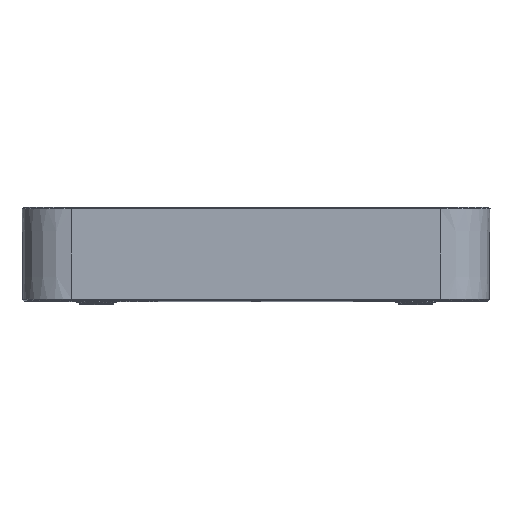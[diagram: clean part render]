
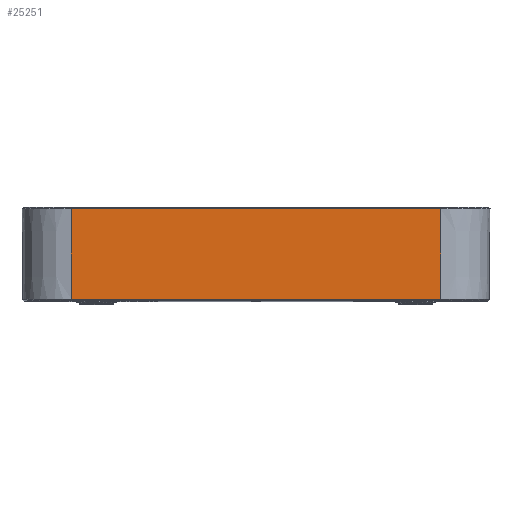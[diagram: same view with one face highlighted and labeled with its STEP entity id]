
A CAD part, top view. The second image highlights one B-rep face of the part: STEP entity #25251.
In plain terms, the highlighted planar face has unit normal (0, -0.009, 1).
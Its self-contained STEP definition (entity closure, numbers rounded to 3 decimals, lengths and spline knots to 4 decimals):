
#5298=DIRECTION('',(-1.,0.,0.));
#5299=VECTOR('',#5298,4.55);
#5300=CARTESIAN_POINT('',(2.275,0.0197,2.8752));
#5301=LINE('',#5300,#5299);
#5302=DIRECTION('',(0.,1.,0.009));
#5303=VECTOR('',#5302,1.1124);
#5304=CARTESIAN_POINT('',(-2.275,0.0197,
2.8752));
#5305=LINE('',#5304,#5303);
#5306=DIRECTION('',(-1.,0.,0.));
#5307=VECTOR('',#5306,4.55);
#5308=CARTESIAN_POINT('',(2.275,1.132,2.8849));
#5309=LINE('',#5308,#5307);
#5323=DIRECTION('',(0.,1.,0.009));
#5324=VECTOR('',#5323,1.1124);
#5325=CARTESIAN_POINT('',(2.275,0.0197,2.8752));
#5326=LINE('',#5325,#5324);
#17376=CARTESIAN_POINT('',(2.275,0.0197,2.8752));
#17377=VERTEX_POINT('',#17376);
#17380=CARTESIAN_POINT('',(-2.275,0.0197,
2.8752));
#17381=VERTEX_POINT('',#17380);
#17392=CARTESIAN_POINT('',(-2.275,1.132,
2.8849));
#17393=VERTEX_POINT('',#17392);
#17394=CARTESIAN_POINT('',(2.275,1.132,2.8849));
#17395=VERTEX_POINT('',#17394);
#25238=CARTESIAN_POINT('',(-3.3823,0.,2.875));
#25239=DIRECTION('',(0.,-0.009,1.));
#25240=DIRECTION('',(1.,0.,0.));
#25241=AXIS2_PLACEMENT_3D('',#25238,#25239,#25240);
#25242=PLANE('',#25241);
#25243=ORIENTED_EDGE('',*,*,#25232,.T.);
#25244=ORIENTED_EDGE('',*,*,#22407,.T.);
#25246=ORIENTED_EDGE('',*,*,#25245,.F.);
#25248=ORIENTED_EDGE('',*,*,#25247,.F.);
#25249=EDGE_LOOP('',(#25243,#25244,#25246,#25248));
#25250=FACE_OUTER_BOUND('',#25249,.F.);
#25251=ADVANCED_FACE('',(#25250),#25242,.T.);
#22407=EDGE_CURVE('',#17381,#17393,#5305,.T.);
#25232=EDGE_CURVE('',#17377,#17381,#5301,.T.);
#25245=EDGE_CURVE('',#17395,#17393,#5309,.T.);
#25247=EDGE_CURVE('',#17377,#17395,#5326,.T.);
